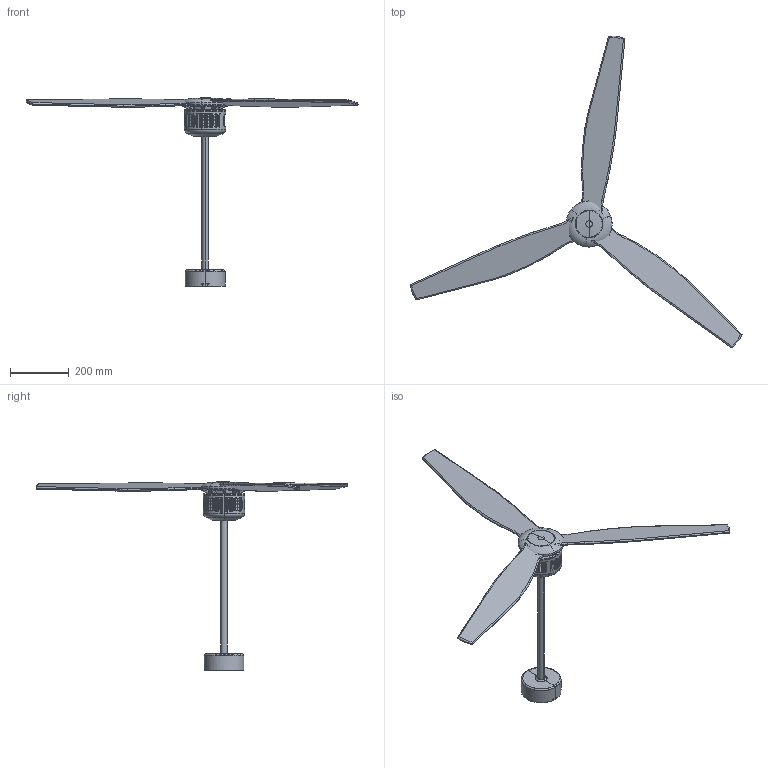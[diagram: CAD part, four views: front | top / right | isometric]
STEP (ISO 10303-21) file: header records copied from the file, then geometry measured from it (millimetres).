
FILE_DESCRIPTION(/* description */ (''),/* implementation_level */ '2;1');
FILE_NAME(/* name */ 'C:\Users\FrancoSartori\Documents\FARO\01_En Proceso\00_COPPER FAN\03_Publicación\33451WP.stp',/* time_stamp */ '2021-05-19T11:58:19+02:00',/* author */ ('FrancoSartori'),/* organization */ (''),/* preprocessor_version */ 'ST-DEVELOPER v18.1',/* originating_system */ 'AutoCAD Mechanical',/* authorisation */ '');
FILE_SCHEMA (('AUTOMOTIVE_DESIGN { 1 0 10303 214 3 1 1 }'));
Products named in the file (2): Product; 33451_ 33451WP_ - FAN-464257-_3D_
Assembly tree (1 placements, depth 2):
  Product
    33451_ 33451WP_ - FAN-464257-_3D_
Bounding box: 1127.17 x 1058.55 x 640.76 mm (x, y, z)
Volume: 3078399.6 mm3; surface area: 725041.7 mm2
Topology: 11 solids, 12 shells, 696 faces, 2139 edges, 1458 vertices
Faces by surface type: torus 231, cylinder 181, plane 180, bspline 60, cone 38, sphere 6
Entity records: 41487 total; most frequent: CARTESIAN_POINT 24420, ORIENTED_EDGE 4190, DIRECTION 2568, EDGE_CURVE 2139, VERTEX_POINT 1458, B_SPLINE_CURVE_WITH_KNOTS 1211, AXIS2_PLACEMENT_3D 1003, EDGE_LOOP 761
